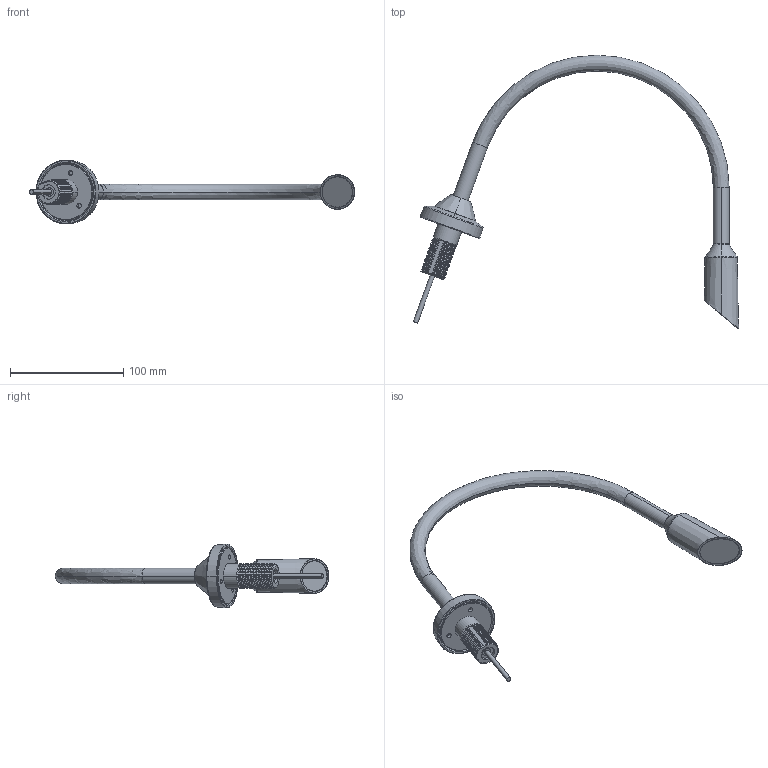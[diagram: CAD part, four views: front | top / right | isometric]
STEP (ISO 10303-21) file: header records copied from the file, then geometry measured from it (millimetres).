
FILE_DESCRIPTION (( 'STEP AP203' ), '1' );
FILE_NAME ('3D_TRL1.STEP', '2017-07-07T06:25:24', ( '' ), ( '' ), 'SwSTEP 2.0', 'SolidWorks 2015', '' );
FILE_SCHEMA (( 'CONFIG_CONTROL_DESIGN' ));
Length unit declared in the file: millimetre
Products named in the file (1): 3D_TRL1
Bounding box: 287.86 x 242 x 56.34 mm (x, y, z)
Volume: 156072.9 mm3; surface area: 46995.6 mm2
Topology: 6 solids, 6 shells, 324 faces, 891 edges, 585 vertices
Faces by surface type: cylinder 152, bspline 113, cone 32, plane 24, torus 3
Entity records: 15705 total; most frequent: CARTESIAN_POINT 8957, ORIENTED_EDGE 1782, DIRECTION 946, EDGE_CURVE 891, VERTEX_POINT 585, AXIS2_PLACEMENT_3D 339, EDGE_LOOP 336, ADVANCED_FACE 324
